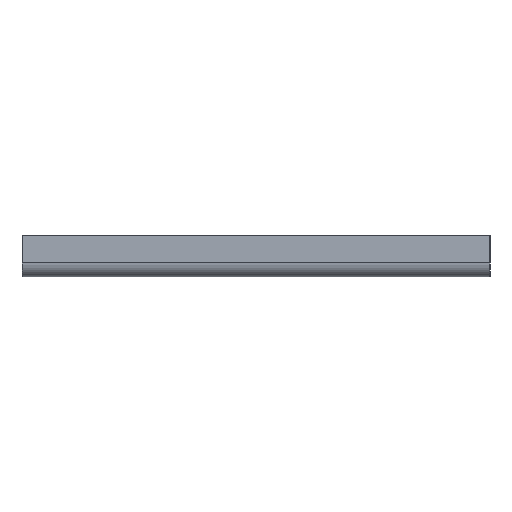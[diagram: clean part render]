
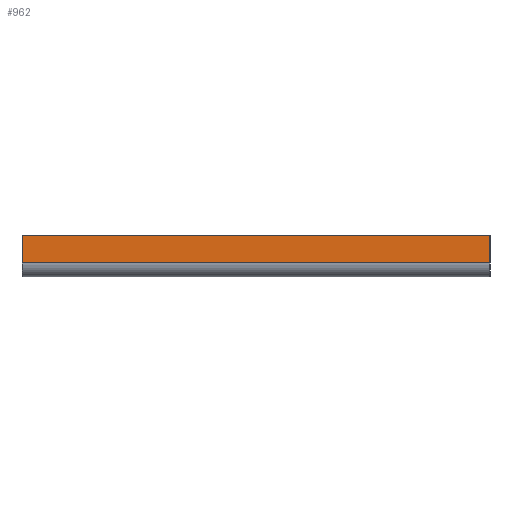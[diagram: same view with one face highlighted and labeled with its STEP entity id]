
A CAD part, left-side view. The second image highlights one B-rep face of the part: STEP entity #962.
In plain terms, the highlighted planar face has unit normal (-1, 0, 0).
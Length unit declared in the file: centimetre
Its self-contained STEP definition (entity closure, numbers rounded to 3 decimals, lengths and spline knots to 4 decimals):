
#188=FACE_OUTER_BOUND('',#238,.T.);
#238=EDGE_LOOP('',(#819,#820,#821,#822));
#339=LINE('',#1586,#411);
#344=LINE('',#1599,#416);
#351=LINE('',#1617,#423);
#353=LINE('',#1620,#425);
#411=VECTOR('',#1321,1.);
#416=VECTOR('',#1332,0.14);
#423=VECTOR('',#1351,1.);
#425=VECTOR('',#1355,1.);
#499=VERTEX_POINT('',#1584);
#500=VERTEX_POINT('',#1585);
#505=VERTEX_POINT('',#1597);
#510=VERTEX_POINT('',#1616);
#615=EDGE_CURVE('',#499,#500,#339,.T.);
#622=EDGE_CURVE('',#500,#505,#344,.T.);
#631=EDGE_CURVE('',#510,#499,#351,.T.);
#633=EDGE_CURVE('',#505,#510,#353,.T.);
#819=ORIENTED_EDGE('',*,*,#615,.T.);
#820=ORIENTED_EDGE('',*,*,#622,.T.);
#821=ORIENTED_EDGE('',*,*,#633,.T.);
#822=ORIENTED_EDGE('',*,*,#631,.T.);
#912=PLANE('',#1082);
#962=ADVANCED_FACE('',(#188),#912,.T.);
#1082=AXIS2_PLACEMENT_3D('',#1623,#1359,#1360);
#1321=DIRECTION('',(0.,-1.,0.));
#1332=DIRECTION('',(0.,0.,1.));
#1351=DIRECTION('',(0.,0.,-1.));
#1355=DIRECTION('',(0.,1.,0.));
#1359=DIRECTION('center_axis',(-1.,0.,0.));
#1360=DIRECTION('ref_axis',(0.,0.,1.));
#1584=CARTESIAN_POINT('',(9.4,3.35,0.9));
#1585=CARTESIAN_POINT('',(9.4,-3.35,0.9));
#1586=CARTESIAN_POINT('',(9.4,0.,0.9));
#1597=CARTESIAN_POINT('',(9.4,-3.35,1.3));
#1599=CARTESIAN_POINT('',(9.4,-3.35,0.4602));
#1616=CARTESIAN_POINT('',(9.4,3.35,1.3));
#1617=CARTESIAN_POINT('',(9.4,3.35,0.9));
#1620=CARTESIAN_POINT('',(9.4,3.35,1.3));
#1623=CARTESIAN_POINT('Origin',(9.4,0.,0.99));
